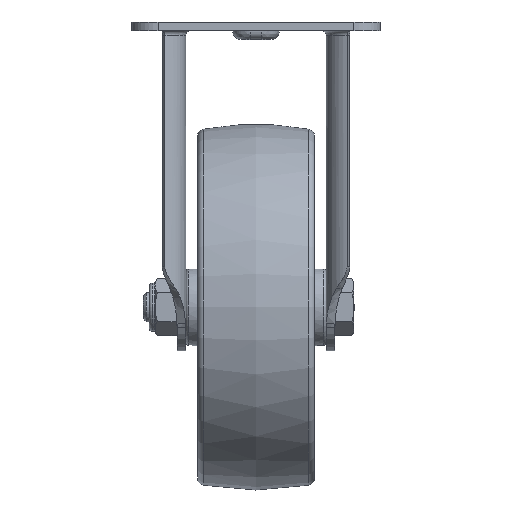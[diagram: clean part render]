
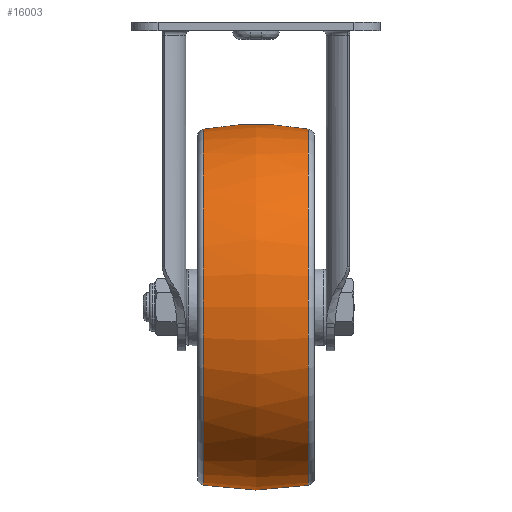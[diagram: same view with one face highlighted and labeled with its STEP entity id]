
A CAD part, left-side view. The second image highlights one B-rep face of the part: STEP entity #16003.
In plain terms, the highlighted free-form (B-spline) face has degree [2, 2] with [3, 9] control points.
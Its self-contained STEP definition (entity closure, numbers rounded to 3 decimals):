
#106=(
BOUNDED_SURFACE()
B_SPLINE_SURFACE(2,2,((#24024,#24025,#24026,#24027,#24028,#24029,#24030,
#24031,#24032),(#24033,#24034,#24035,#24036,#24037,#24038,#24039,#24040,
#24041),(#24042,#24043,#24044,#24045,#24046,#24047,#24048,#24049,#24050)),
 .UNSPECIFIED.,.F.,.T.,.F.)
B_SPLINE_SURFACE_WITH_KNOTS((3,3),(3,2,2,2,3),(-0.18,0.18),
(-3.142,-1.571,0.,1.571,3.142),
 .UNSPECIFIED.)
GEOMETRIC_REPRESENTATION_ITEM()
RATIONAL_B_SPLINE_SURFACE(((1.,0.707,1.,0.707,1.,
0.707,1.,0.707,1.),(0.984,0.696,
0.984,0.696,0.984,0.696,0.984,
0.696,0.984),(1.,0.707,1.,0.707,
1.,0.707,1.,0.707,1.)))
REPRESENTATION_ITEM('')
SURFACE()
);
#173=CIRCLE('',#16758,60.876);
#175=CIRCLE('',#16760,60.876);
#176=CIRCLE('',#16761,100.);
#1899=FACE_OUTER_BOUND('',#2831,.T.);
#2831=EDGE_LOOP('',(#12619,#12620,#12621,#12622));
#7091=VERTEX_POINT('',#24021);
#7092=VERTEX_POINT('',#24051);
#9065=EDGE_CURVE('',#7091,#7091,#173,.T.);
#9067=EDGE_CURVE('',#7092,#7092,#175,.T.);
#9068=EDGE_CURVE('',#7092,#7091,#176,.T.);
#12619=ORIENTED_EDGE('',*,*,#9067,.F.);
#12620=ORIENTED_EDGE('',*,*,#9068,.T.);
#12621=ORIENTED_EDGE('',*,*,#9065,.T.);
#12622=ORIENTED_EDGE('',*,*,#9068,.F.);
#16003=ADVANCED_FACE('',(#1899),#106,.F.);
#16758=AXIS2_PLACEMENT_3D('',#24022,#18533,#18534);
#16760=AXIS2_PLACEMENT_3D('',#24052,#18537,#18538);
#16761=AXIS2_PLACEMENT_3D('',#24053,#18539,#18540);
#18533=DIRECTION('center_axis',(0.,-1.,0.));
#18534=DIRECTION('ref_axis',(0.,0.,
-1.));
#18537=DIRECTION('center_axis',(0.,-1.,0.));
#18538=DIRECTION('ref_axis',(0.,0.,
-1.));
#18539=DIRECTION('center_axis',(-1.,0.,0.));
#18540=DIRECTION('ref_axis',(0.,0.,1.));
#24021=CARTESIAN_POINT('',(0.,17.949,-36.624));
#24022=CARTESIAN_POINT('Origin',(0.,17.949,-97.5));
#24024=CARTESIAN_POINT('Ctrl Pts',(0.,17.949,
-36.624));
#24025=CARTESIAN_POINT('Ctrl Pts',(-60.876,17.949,-36.624));
#24026=CARTESIAN_POINT('Ctrl Pts',(-60.876,17.949,-97.5));
#24027=CARTESIAN_POINT('Ctrl Pts',(-60.876,17.949,-158.376));
#24028=CARTESIAN_POINT('Ctrl Pts',(0.,17.949,
-158.376));
#24029=CARTESIAN_POINT('Ctrl Pts',(60.876,17.949,-158.376));
#24030=CARTESIAN_POINT('Ctrl Pts',(60.876,17.949,-97.5));
#24031=CARTESIAN_POINT('Ctrl Pts',(60.876,17.949,-36.624));
#24032=CARTESIAN_POINT('Ctrl Pts',(0.,17.949,
-36.624));
#24033=CARTESIAN_POINT('Ctrl Pts',(0.,0.,
-33.349));
#24034=CARTESIAN_POINT('Ctrl Pts',(-64.151,0.,
-33.349));
#24035=CARTESIAN_POINT('Ctrl Pts',(-64.151,0.,
-97.5));
#24036=CARTESIAN_POINT('Ctrl Pts',(-64.151,0.,
-161.651));
#24037=CARTESIAN_POINT('Ctrl Pts',(0.,0.,
-161.651));
#24038=CARTESIAN_POINT('Ctrl Pts',(64.151,0.,
-161.651));
#24039=CARTESIAN_POINT('Ctrl Pts',(64.151,0.,
-97.5));
#24040=CARTESIAN_POINT('Ctrl Pts',(64.151,0.,
-33.349));
#24041=CARTESIAN_POINT('Ctrl Pts',(0.,0.,
-33.349));
#24042=CARTESIAN_POINT('Ctrl Pts',(0.,-17.949,
-36.624));
#24043=CARTESIAN_POINT('Ctrl Pts',(-60.876,-17.949,
-36.624));
#24044=CARTESIAN_POINT('Ctrl Pts',(-60.876,-17.949,
-97.5));
#24045=CARTESIAN_POINT('Ctrl Pts',(-60.876,-17.949,
-158.376));
#24046=CARTESIAN_POINT('Ctrl Pts',(0.,-17.949,
-158.376));
#24047=CARTESIAN_POINT('Ctrl Pts',(60.876,-17.949,-158.376));
#24048=CARTESIAN_POINT('Ctrl Pts',(60.876,-17.949,-97.5));
#24049=CARTESIAN_POINT('Ctrl Pts',(60.876,-17.949,-36.624));
#24050=CARTESIAN_POINT('Ctrl Pts',(0.,-17.949,
-36.624));
#24051=CARTESIAN_POINT('',(0.,-17.949,-36.624));
#24052=CARTESIAN_POINT('Origin',(0.,-17.949,
-97.5));
#24053=CARTESIAN_POINT('Origin',(0.,0.,
-135.));
